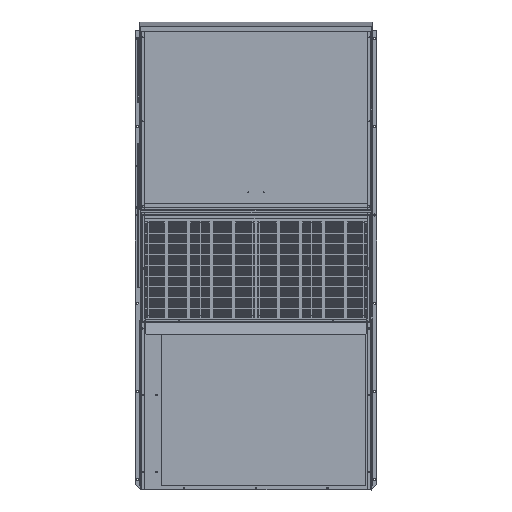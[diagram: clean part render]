
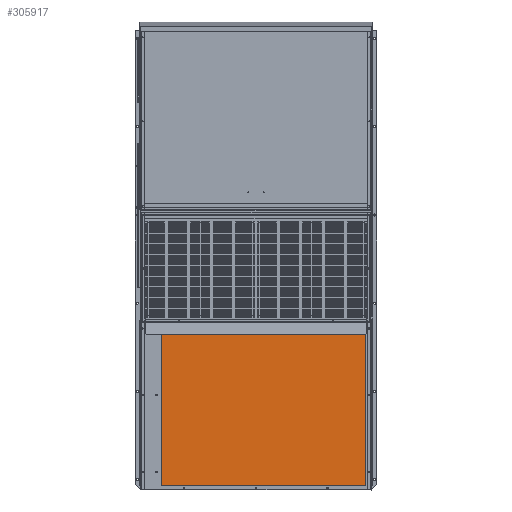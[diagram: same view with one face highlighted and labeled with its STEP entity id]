
A CAD part, top view. The second image highlights one B-rep face of the part: STEP entity #305917.
In plain terms, the highlighted planar face has unit normal (0, 0, 1).
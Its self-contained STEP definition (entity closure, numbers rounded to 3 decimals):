
#3445 = CARTESIAN_POINT ( 'NONE',  ( 3.681, 0.723, 0.012 ) ) ;
#3606 = PLANE ( 'NONE',  #38198 ) ;
#7544 = LINE ( 'NONE', #221135, #286568 ) ;
#28892 = EDGE_LOOP ( 'NONE', ( #103952, #138340, #312418, #62997 ) ) ;
#38198 = AXIS2_PLACEMENT_3D ( 'NONE', #296386, #78257, #333136 ) ;
#43033 = EDGE_CURVE ( 'NONE', #422591, #378849, #395995, .T. ) ;
#51609 = EDGE_CURVE ( 'NONE', #208227, #422591, #71909, .T. ) ;
#62997 = ORIENTED_EDGE ( 'NONE', *, *, #361696, .F. ) ;
#71909 = LINE ( 'NONE', #142391, #265633 ) ;
#78257 = DIRECTION ( 'NONE',  ( 0., 0., 1. ) ) ;
#103952 = ORIENTED_EDGE ( 'NONE', *, *, #218185, .F. ) ;
#104318 = DIRECTION ( 'NONE',  ( 0., -1., 0. ) ) ;
#138340 = ORIENTED_EDGE ( 'NONE', *, *, #43033, .F. ) ;
#142391 = CARTESIAN_POINT ( 'NONE',  ( 40.754, 30.773, 0.012 ) ) ;
#162342 = VERTEX_POINT ( 'NONE', #3445 ) ;
#201299 = FACE_OUTER_BOUND ( 'NONE', #28892, .T. ) ;
#208227 = VERTEX_POINT ( 'NONE', #302604 ) ;
#210256 = LINE ( 'NONE', #301891, #392649 ) ;
#218185 = EDGE_CURVE ( 'NONE', #378849, #162342, #7544, .T. ) ;
#221135 = CARTESIAN_POINT ( 'NONE',  ( 3.681, 0.723, 0.012 ) ) ;
#265633 = VECTOR ( 'NONE', #397295, 39.37 ) ;
#286568 = VECTOR ( 'NONE', #439434, 39.37 ) ;
#296386 = CARTESIAN_POINT ( 'NONE',  ( -0.44, 31.355, 0.012 ) ) ;
#299009 = VECTOR ( 'NONE', #104318, 39.37 ) ;
#301891 = CARTESIAN_POINT ( 'NONE',  ( 3.681, 30.773, 0.012 ) ) ;
#302604 = CARTESIAN_POINT ( 'NONE',  ( 3.681, 30.773, 0.012 ) ) ;
#305917 = ADVANCED_FACE ( 'NONE', ( #201299 ), #3606, .T. ) ;
#312418 = ORIENTED_EDGE ( 'NONE', *, *, #51609, .F. ) ;
#322520 = CARTESIAN_POINT ( 'NONE',  ( 40.754, 0.723, 0.012 ) ) ;
#333136 = DIRECTION ( 'NONE',  ( 0., -1., 0. ) ) ;
#333449 = CARTESIAN_POINT ( 'NONE',  ( 40.754, 30.773, 0.012 ) ) ;
#361696 = EDGE_CURVE ( 'NONE', #162342, #208227, #210256, .T. ) ;
#378849 = VERTEX_POINT ( 'NONE', #419270 ) ;
#392649 = VECTOR ( 'NONE', #411934, 39.37 ) ;
#395995 = LINE ( 'NONE', #322520, #299009 ) ;
#397295 = DIRECTION ( 'NONE',  ( 1., 0., 0. ) ) ;
#411934 = DIRECTION ( 'NONE',  ( 0., 1., 0. ) ) ;
#419270 = CARTESIAN_POINT ( 'NONE',  ( 40.754, 0.723, 0.012 ) ) ;
#422591 = VERTEX_POINT ( 'NONE', #333449 ) ;
#439434 = DIRECTION ( 'NONE',  ( -1., 0., 0. ) ) ;
